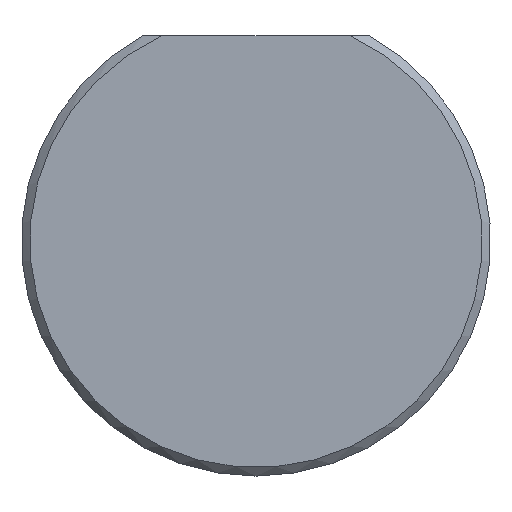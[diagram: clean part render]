
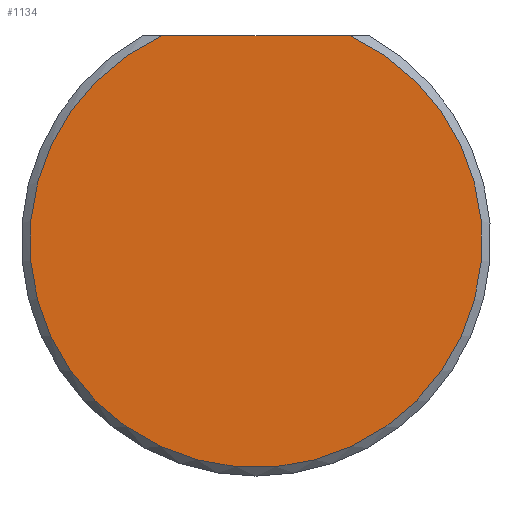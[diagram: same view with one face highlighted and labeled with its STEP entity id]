
A CAD part, front view. The second image highlights one B-rep face of the part: STEP entity #1134.
In plain terms, the highlighted planar face has unit normal (0, -1, 0).
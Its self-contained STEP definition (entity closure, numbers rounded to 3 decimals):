
#118 = DIRECTION ( 'NONE',  ( 0., 1., 0. ) ) ;
#400 = CIRCLE ( 'NONE', #991, 6.6 ) ;
#425 = CARTESIAN_POINT ( 'NONE',  ( 2.75, 0., 6. ) ) ;
#439 = CARTESIAN_POINT ( 'NONE',  ( 0., 0., 0. ) ) ;
#559 = VERTEX_POINT ( 'NONE', #425 ) ;
#624 = CARTESIAN_POINT ( 'NONE',  ( -2.75, 0., 6. ) ) ;
#755 = EDGE_CURVE ( 'NONE', #2057, #559, #400, .T. ) ;
#991 = AXIS2_PLACEMENT_3D ( 'NONE', #1453, #1614, #1435 ) ;
#1073 = VECTOR ( 'NONE', #1617, 1000. ) ;
#1134 = ADVANCED_FACE ( 'NONE', ( #1608 ), #1438, .F. ) ;
#1159 = EDGE_LOOP ( 'NONE', ( #1306, #1812 ) ) ;
#1213 = AXIS2_PLACEMENT_3D ( 'NONE', #439, #118, #1947 ) ;
#1228 = CARTESIAN_POINT ( 'NONE',  ( 0., 0., 6. ) ) ;
#1306 = ORIENTED_EDGE ( 'NONE', *, *, #2038, .T. ) ;
#1435 = DIRECTION ( 'NONE',  ( 0., 0., 1. ) ) ;
#1438 = PLANE ( 'NONE',  #1213 ) ;
#1453 = CARTESIAN_POINT ( 'NONE',  ( 0., 0., 0. ) ) ;
#1568 = LINE ( 'NONE', #1228, #1073 ) ;
#1608 = FACE_OUTER_BOUND ( 'NONE', #1159, .T. ) ;
#1614 = DIRECTION ( 'NONE',  ( 0., -1., 0. ) ) ;
#1617 = DIRECTION ( 'NONE',  ( -1., 0., 0. ) ) ;
#1812 = ORIENTED_EDGE ( 'NONE', *, *, #755, .T. ) ;
#1947 = DIRECTION ( 'NONE',  ( 0., 0., 1. ) ) ;
#2038 = EDGE_CURVE ( 'NONE', #559, #2057, #1568, .T. ) ;
#2057 = VERTEX_POINT ( 'NONE', #624 ) ;
